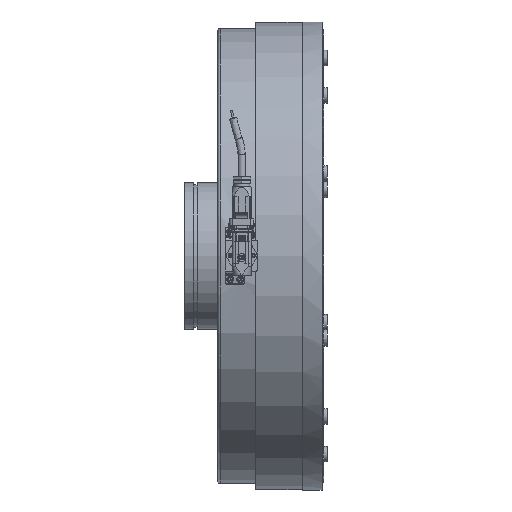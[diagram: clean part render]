
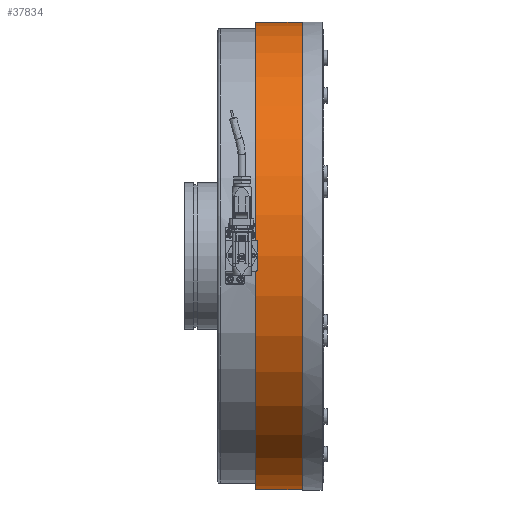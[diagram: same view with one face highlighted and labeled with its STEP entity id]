
A CAD part, top view. The second image highlights one B-rep face of the part: STEP entity #37834.
In plain terms, the highlighted cylindrical face has radius 302.5 mm (diameter 605 mm), a full revolution.
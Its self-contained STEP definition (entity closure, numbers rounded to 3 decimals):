
#3732=FACE_OUTER_BOUND('',#5878,.T.);
#5878=EDGE_LOOP('',(#33175,#33176,#33177,#33178,#33179,#33180));
#9004=LINE('',#64534,#12076);
#12076=VECTOR('',#52209,302.5);
#14025=CIRCLE('',#41622,302.5);
#14026=CIRCLE('',#41623,302.5);
#14027=CIRCLE('',#41625,302.5);
#14028=CIRCLE('',#41626,302.5);
#17582=VERTEX_POINT('',#64525);
#17583=VERTEX_POINT('',#64526);
#17584=VERTEX_POINT('',#64530);
#17585=VERTEX_POINT('',#64531);
#22846=EDGE_CURVE('',#17582,#17583,#14025,.T.);
#22847=EDGE_CURVE('',#17583,#17582,#14026,.T.);
#22848=EDGE_CURVE('',#17584,#17585,#14027,.T.);
#22849=EDGE_CURVE('',#17585,#17584,#14028,.T.);
#22850=EDGE_CURVE('',#17585,#17583,#9004,.T.);
#33175=ORIENTED_EDGE('',*,*,#22848,.F.);
#33176=ORIENTED_EDGE('',*,*,#22849,.F.);
#33177=ORIENTED_EDGE('',*,*,#22850,.T.);
#33178=ORIENTED_EDGE('',*,*,#22847,.T.);
#33179=ORIENTED_EDGE('',*,*,#22846,.T.);
#33180=ORIENTED_EDGE('',*,*,#22850,.F.);
#34118=CYLINDRICAL_SURFACE('',#41624,302.5);
#37834=ADVANCED_FACE('',(#3732),#34118,.T.);
#41622=AXIS2_PLACEMENT_3D('',#64527,#52199,#52200);
#41623=AXIS2_PLACEMENT_3D('',#64528,#52201,#52202);
#41624=AXIS2_PLACEMENT_3D('',#64529,#52203,#52204);
#41625=AXIS2_PLACEMENT_3D('',#64532,#52205,#52206);
#41626=AXIS2_PLACEMENT_3D('',#64533,#52207,#52208);
#52199=DIRECTION('center_axis',(1.,0.,0.));
#52200=DIRECTION('ref_axis',(0.,0.,-1.));
#52201=DIRECTION('center_axis',(1.,0.,0.));
#52202=DIRECTION('ref_axis',(0.,0.,-1.));
#52203=DIRECTION('center_axis',(1.,0.,0.));
#52204=DIRECTION('ref_axis',(0.,1.,0.));
#52205=DIRECTION('center_axis',(1.,0.,0.));
#52206=DIRECTION('ref_axis',(0.,0.,-1.));
#52207=DIRECTION('center_axis',(1.,0.,0.));
#52208=DIRECTION('ref_axis',(0.,0.,-1.));
#52209=DIRECTION('',(-1.,0.,0.));
#64525=CARTESIAN_POINT('',(17.7,302.5,0.));
#64526=CARTESIAN_POINT('',(17.7,-302.5,0.));
#64527=CARTESIAN_POINT('Origin',(17.7,0.,
0.));
#64528=CARTESIAN_POINT('Origin',(17.7,0.,
0.));
#64529=CARTESIAN_POINT('Origin',(47.7,0.,
0.));
#64530=CARTESIAN_POINT('',(77.7,302.5,0.));
#64531=CARTESIAN_POINT('',(77.7,-302.5,0.));
#64532=CARTESIAN_POINT('Origin',(77.7,0.,
0.));
#64533=CARTESIAN_POINT('Origin',(77.7,0.,
0.));
#64534=CARTESIAN_POINT('',(47.7,-302.5,0.));
